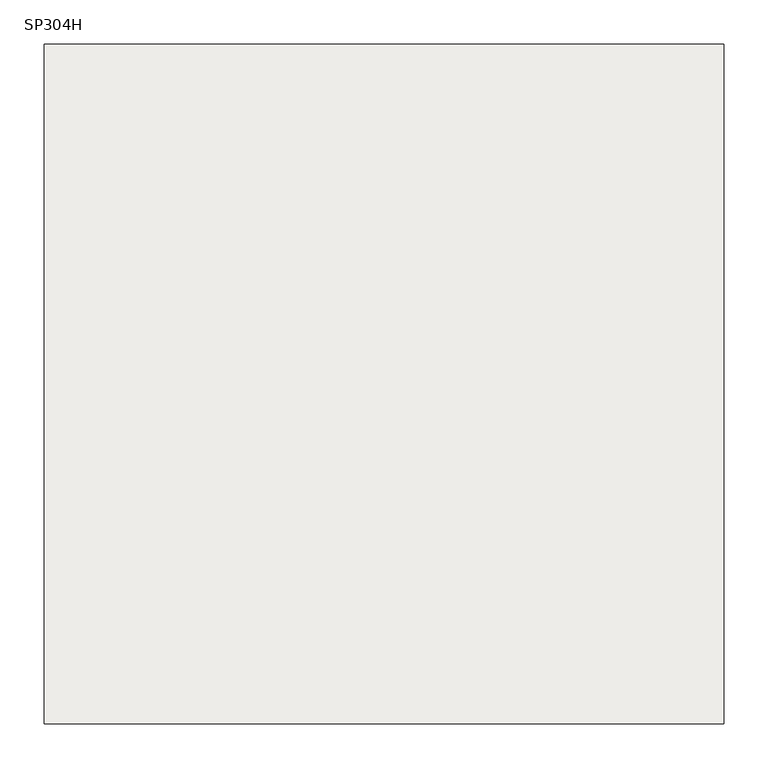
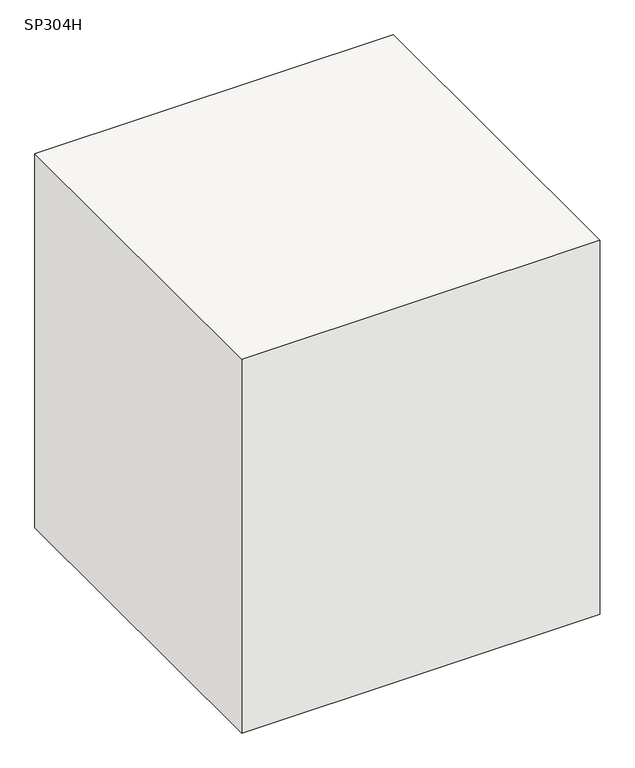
"""IFC4 building model written with IfcOpenShell, lengths in millimetres: slab geometry, 柱形_SP : SP304H."""

from ifc_helpers import new_model, si_unit, frame, origin, place, context, project, spatial, polyline, outline, extrude, source, transform, mapped, element, save


def sp304h_1c79e197(model_context):
    return source(origin(), model_context, "Body", "SweptSolid", [
        extrude(outline(polyline([(385.0, 385.0), (385.0, -385.0), (-385.0, -385.0), (-385.0, 385.0), (385.0, 385.0)])), frame((0.0, 0.0, -850.0), z_axis=(0.0, 0.0, 1.0), x_axis=(1.0, 0.0, 0.0)), (0.0, 0.0, 1.0), 850.0),
    ])


if __name__ == "__main__":
    model = new_model("IFC4")
    model_context = context("Model", 3, world=origin())
    ifc_project = project(units=[si_unit("LENGTHUNIT", "METRE", prefix="MILLI")], contexts=[model_context])
    site = spatial("IfcSite", under=ifc_project)
    building = spatial("IfcBuilding", under=site)
    placement = place(None, origin())
    sp304h_shape = sp304h_1c79e197(model_context)
    element("IfcSlab", 1, ObjectType="柱形_SP : SP304H", at=placement, inside=building, context=model_context, shape_type="MappedRepresentation", body=[
        mapped(sp304h_shape, transform((0.0, 0.0, 0.0), x_axis=(1.0, 0.0, 0.0), y_axis=(0.0, 1.0, 0.0), z_axis=(0.0, 0.0, 1.0))),
    ])
    save(model, "model.ifc")
